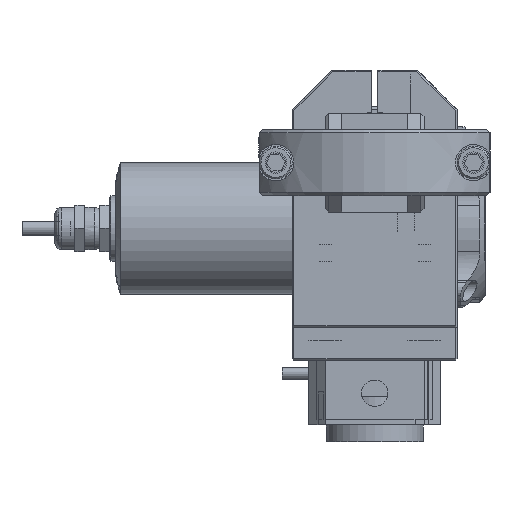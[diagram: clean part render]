
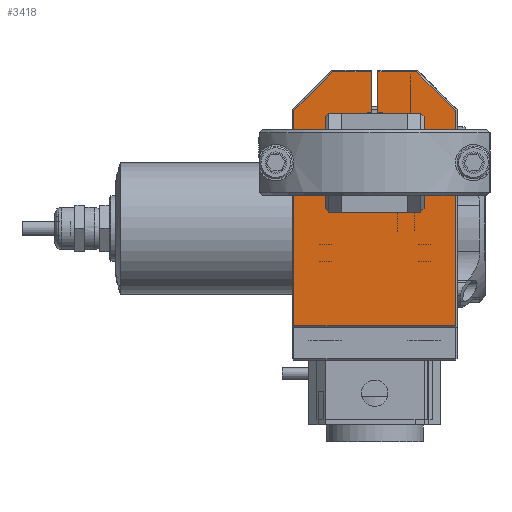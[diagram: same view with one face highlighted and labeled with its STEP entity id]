
A CAD part, left-side view. The second image highlights one B-rep face of the part: STEP entity #3418.
In plain terms, the highlighted planar face has unit normal (-1, 0, 0) as drawn and (1, 0, 0) by its records, which use the part's own axes.
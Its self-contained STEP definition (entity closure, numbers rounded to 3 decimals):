
#3418 = ADVANCED_FACE( '', ( #6547 ), #6548, .T. );
#6547 = FACE_OUTER_BOUND( '', #12455, .T. );
#6548 = PLANE( '', #12456 );
#12455 = EDGE_LOOP( '', ( #19794, #19795, #19796, #19797, #19798, #19799, #19800, #19801, #19802, #19803 ) );
#12456 = AXIS2_PLACEMENT_3D( '', #19804, #19805, #19806 );
#19794 = ORIENTED_EDGE( '', *, *, #22992, .F. );
#19795 = ORIENTED_EDGE( '', *, *, #22227, .T. );
#19796 = ORIENTED_EDGE( '', *, *, #23694, .F. );
#19797 = ORIENTED_EDGE( '', *, *, #23704, .T. );
#19798 = ORIENTED_EDGE( '', *, *, #22279, .T. );
#19799 = ORIENTED_EDGE( '', *, *, #22710, .T. );
#19800 = ORIENTED_EDGE( '', *, *, #24235, .T. );
#19801 = ORIENTED_EDGE( '', *, *, #22072, .T. );
#19802 = ORIENTED_EDGE( '', *, *, #24186, .T. );
#19803 = ORIENTED_EDGE( '', *, *, #23490, .T. );
#19804 = CARTESIAN_POINT( '', ( 15., -25., -39. ) );
#19805 = DIRECTION( '', ( 1., 0., 0. ) );
#19806 = DIRECTION( '', ( 0., 1., 0. ) );
#22072 = EDGE_CURVE( '', #27745, #27743, #27746, .T. );
#22227 = EDGE_CURVE( '', #28004, #28008, #28010, .F. );
#22279 = EDGE_CURVE( '', #28092, #28096, #28098, .T. );
#22710 = EDGE_CURVE( '', #28096, #28818, #28819, .T. );
#22992 = EDGE_CURVE( '', #28004, #29249, #29250, .T. );
#23490 = EDGE_CURVE( '', #30023, #29249, #30024, .T. );
#23694 = EDGE_CURVE( '', #30321, #28008, #30323, .T. );
#23704 = EDGE_CURVE( '', #30321, #28092, #30335, .T. );
#24186 = EDGE_CURVE( '', #27743, #30023, #31070, .T. );
#24235 = EDGE_CURVE( '', #28818, #27745, #31138, .T. );
#27743 = VERTEX_POINT( '', #34460 );
#27745 = VERTEX_POINT( '', #34463 );
#27746 = LINE( '', #34464, #34465 );
#28004 = VERTEX_POINT( '', #35044 );
#28008 = VERTEX_POINT( '', #35051 );
#28010 = CIRCLE( '', #35056, 15.3 );
#28092 = VERTEX_POINT( '', #35217 );
#28096 = VERTEX_POINT( '', #35223 );
#28098 = LINE( '', #35226, #35227 );
#28818 = VERTEX_POINT( '', #36650 );
#28819 = LINE( '', #36651, #36652 );
#29249 = VERTEX_POINT( '', #37512 );
#29250 = LINE( '', #37513, #37514 );
#30023 = VERTEX_POINT( '', #39300 );
#30024 = LINE( '', #39301, #39302 );
#30321 = VERTEX_POINT( '', #39923 );
#30323 = LINE( '', #39926, #39927 );
#30335 = LINE( '', #40001, #40002 );
#31070 = LINE( '', #42688, #42689 );
#31138 = LINE( '', #42867, #42868 );
#34460 = CARTESIAN_POINT( '', ( 15., 24.5, 26.793 ) );
#34463 = CARTESIAN_POINT( '', ( 15., 24.5, -38.5 ) );
#34464 = CARTESIAN_POINT( '', ( 15., 24.5, 39. ) );
#34465 = VECTOR( '', #48886, 1000. );
#35044 = CARTESIAN_POINT( '', ( 15., 1., 26.267 ) );
#35051 = CARTESIAN_POINT( '', ( 15., -1., 26.267 ) );
#35056 = AXIS2_PLACEMENT_3D( '', #49056, #49057, #49058 );
#35217 = CARTESIAN_POINT( '', ( 15., -12.793, 38.5 ) );
#35223 = CARTESIAN_POINT( '', ( 15., -24.5, 26.793 ) );
#35226 = CARTESIAN_POINT( '', ( 15., -57.646, -6.354 ) );
#35227 = VECTOR( '', #49116, 1000. );
#36650 = CARTESIAN_POINT( '', ( 15., -24.5, -38.5 ) );
#36651 = CARTESIAN_POINT( '', ( 15., -24.5, -39. ) );
#36652 = VECTOR( '', #49650, 1000. );
#37512 = CARTESIAN_POINT( '', ( 15., 1., 38.5 ) );
#37513 = CARTESIAN_POINT( '', ( 15., 1., 9. ) );
#37514 = VECTOR( '', #49941, 1000. );
#39300 = CARTESIAN_POINT( '', ( 15., 12.793, 38.5 ) );
#39301 = CARTESIAN_POINT( '', ( 15., -25., 38.5 ) );
#39302 = VECTOR( '', #50418, 1000. );
#39923 = CARTESIAN_POINT( '', ( 15., -1., 38.5 ) );
#39926 = CARTESIAN_POINT( '', ( 15., -1., 39. ) );
#39927 = VECTOR( '', #50597, 1000. );
#40001 = CARTESIAN_POINT( '', ( 15., -25., 38.5 ) );
#40002 = VECTOR( '', #50604, 1000. );
#42688 = CARTESIAN_POINT( '', ( 15., 32.646, 18.646 ) );
#42689 = VECTOR( '', #50999, 1000. );
#42867 = CARTESIAN_POINT( '', ( 15., 25., -38.5 ) );
#42868 = VECTOR( '', #51033, 1000. );
#48886 = DIRECTION( '', ( 0., 0., 1. ) );
#49056 = CARTESIAN_POINT( '', ( 15., 0., 11. ) );
#49057 = DIRECTION( '', ( 1., 0., 0. ) );
#49058 = DIRECTION( '', ( 0., 1., 0. ) );
#49116 = DIRECTION( '', ( 0., -0.707, -0.707 ) );
#49650 = DIRECTION( '', ( 0., 0., -1. ) );
#49941 = DIRECTION( '', ( 0., 0., 1. ) );
#50418 = DIRECTION( '', ( 0., -1., 0. ) );
#50597 = DIRECTION( '', ( 0., 0., -1. ) );
#50604 = DIRECTION( '', ( 0., -1., 0. ) );
#50999 = DIRECTION( '', ( 0., -0.707, 0.707 ) );
#51033 = DIRECTION( '', ( 0., 1., 0. ) );
